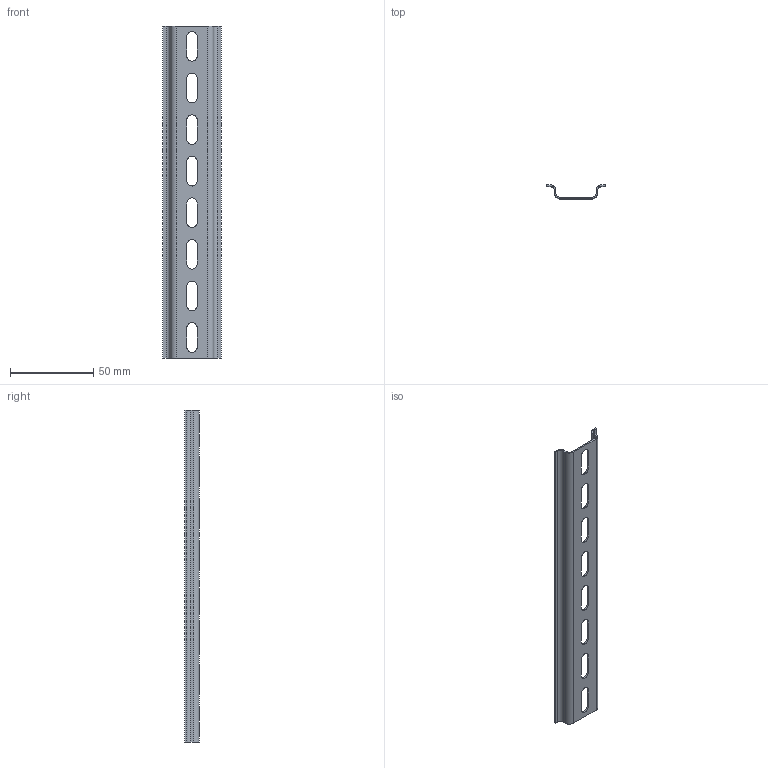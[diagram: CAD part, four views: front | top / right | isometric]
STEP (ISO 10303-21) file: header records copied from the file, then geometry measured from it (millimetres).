
FILE_DESCRIPTION (( 'STEP AP214' ), '1' );
FILE_NAME ('DIN-ðåéêà 200ìì õ 0,1 ìì.STEP', '2025-10-22T11:32:47', ( '' ), ( '' ), 'SwSTEP 2.0', 'SolidWorks 2018', '' );
FILE_SCHEMA (( 'AUTOMOTIVE_DESIGN' ));
Length unit declared in the file: millimetre
Products named in the file (1): DIN-ðåéêà 200ìì õ 0,1 ìì
Bounding box: 35.2 x 8.5 x 200 mm (x, y, z)
Volume: 8194.2 mm3; surface area: 17221 mm2
Topology: 1 solids, 1 shells, 78 faces, 196 edges, 120 vertices
Faces by surface type: plane 46, cylinder 32
Entity records: 2374 total; most frequent: DIRECTION 418, CARTESIAN_POINT 395, ORIENTED_EDGE 392, EDGE_CURVE 196, AXIS2_PLACEMENT_3D 143, LINE 132, VECTOR 132, VERTEX_POINT 120
